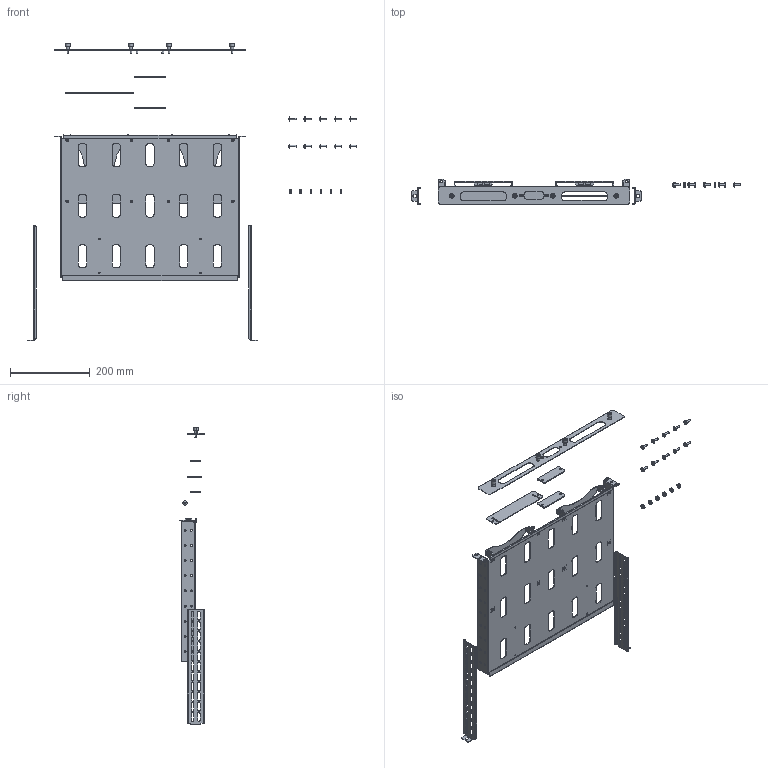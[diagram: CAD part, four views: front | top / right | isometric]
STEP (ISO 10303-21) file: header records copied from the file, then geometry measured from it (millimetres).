
FILE_DESCRIPTION((''),'2;1');
FILE_NAME('RACK_KIT_EXPLODED_RPLY_ASM','2024-01-18T12:48:40',('thnguyen'),(''),'CREO PARAMETRIC BY PTC INC, 2022284','CREO PARAMETRIC BY PTC INC, 2022284','');
FILE_SCHEMA(('CONFIG_CONTROL_DESIGN','SHAPE_APPEARANCE_LAYERS_GROUPS'));
Length unit declared in the file: inch
Products named in the file (18): BRACKET_MAIN_RACK_PLATFORM_RPL; BRACKET_TOP_RACK_REPLAY; RAS-632-10-4; CUSHION_PORON_093_RPL; BRACKET_TOP_RACK_ASSY_RPL_ASM; RIVET_POP_SKK3035PT_AFF; BRACKET_MAIN_ASSY_RACK_RPL_ASM; BRACKET_FRONT_RACK_RPL; PF11MW-632-12; FH-032-6; BRACKET_FRONT_ASSY_RACK_RPL_ASM; BRACKET_CLOSURE_MIDDLE_RPL; BRACKET_CLOSURE_RPL; BRACKET_CLOSURE_ASSY_RPL_ASM; BRKT_RACK_STATIONARY_REAR_SUS; SCREW_TH_10-32X625_POZ_ST_LIB; NUT_LK-WASH_HEX375_10-32_LIB; RACK_KIT_EXPLODED_RPLY_ASM
Assembly tree (51 placements, depth 4):
  RACK_KIT_EXPLODED_RPLY_ASM
    BRACKET_MAIN_ASSY_RACK_RPL_ASM
      BRACKET_MAIN_RACK_PLATFORM_RPL
      BRACKET_TOP_RACK_ASSY_RPL_ASM  x2
        BRACKET_TOP_RACK_REPLAY
        RAS-632-10-4
        CUSHION_PORON_093_RPL
      RIVET_POP_SKK3035PT_AFF  x8
    BRACKET_FRONT_ASSY_RACK_RPL_ASM
      BRACKET_FRONT_RACK_RPL
      PF11MW-632-12  x4
      FH-032-6  x2
    BRACKET_CLOSURE_MIDDLE_RPL  x2
    BRACKET_CLOSURE_ASSY_RPL_ASM
      BRACKET_CLOSURE_RPL
    BRKT_RACK_STATIONARY_REAR_SUS  x2
    SCREW_TH_10-32X625_POZ_ST_LIB  x10
    NUT_LK-WASH_HEX375_10-32_LIB  x6
Bounding box: 827 x 62.23 x 748.02 mm (x, y, z)
Volume: 427450.2 mm3; surface area: 565009.9 mm2
Topology: 55 solids, 55 shells, 2420 faces, 6336 edges, 4078 vertices
Faces by surface type: plane 1234, cylinder 974, cone 172, torus 20, sphere 20
Entity records: 46183 total; most frequent: DIRECTION 5610, CARTESIAN_POINT 5479, ORIENTED_EDGE 5152, PRESENTATION_STYLE_ASSIGNMENT 3547, STYLED_ITEM 3547, CURVE_STYLE 2576, EDGE_CURVE 2576, AXIS2_PLACEMENT_3D 2013
